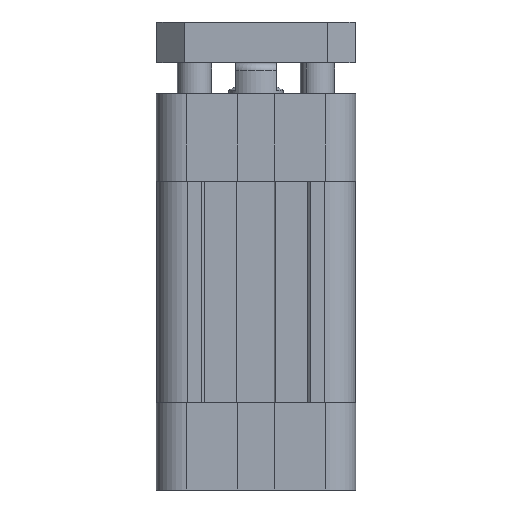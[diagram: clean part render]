
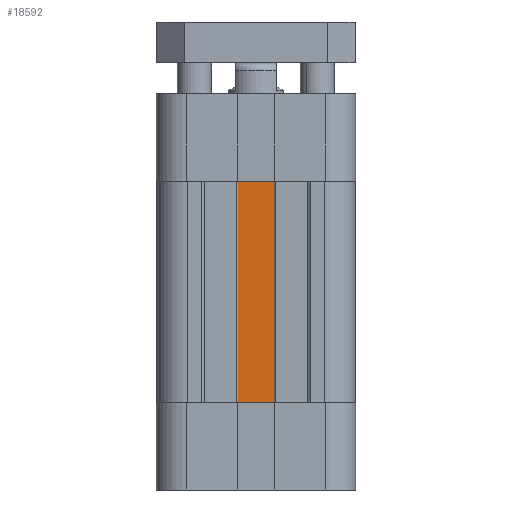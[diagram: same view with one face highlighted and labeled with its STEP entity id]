
A CAD part, front view. The second image highlights one B-rep face of the part: STEP entity #18592.
In plain terms, the highlighted planar face has unit normal (0, -1, 0).
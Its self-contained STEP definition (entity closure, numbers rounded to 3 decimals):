
#6932 = VERTEX_POINT ( 'NONE', #19299 ) ;
#6933 = VERTEX_POINT ( 'NONE', #19298 ) ;
#6999 = EDGE_CURVE ( 'NONE', #6932, #6933, #19433, .T. ) ;
#7181 = VERTEX_POINT ( 'NONE', #19789 ) ;
#7183 = EDGE_CURVE ( 'NONE', #7184, #7181, #19788, .T. ) ;
#7184 = VERTEX_POINT ( 'NONE', #19784 ) ;
#18584 = EDGE_CURVE ( 'NONE', #6932, #7184, #20492, .T. ) ;
#18592 = ADVANCED_FACE ( 'NONE', ( #20532 ), #20538, .F. ) ;
#18600 = EDGE_CURVE ( 'NONE', #6933, #7181, #20523, .T. ) ;
#18601 = ORIENTED_EDGE ( 'NONE', *, *, #18584, .T. ) ;
#18603 = EDGE_LOOP ( 'NONE', ( #18607, #18604, #18605, #18601 ) ) ;
#18604 = ORIENTED_EDGE ( 'NONE', *, *, #18600, .F. ) ;
#18605 = ORIENTED_EDGE ( 'NONE', *, *, #6999, .F. ) ;
#18607 = ORIENTED_EDGE ( 'NONE', *, *, #7183, .T. ) ;
#19298 = CARTESIAN_POINT ( 'NONE',  ( 3.1, -9.3, 32.4 ) ) ;
#19299 = CARTESIAN_POINT ( 'NONE',  ( -3.1, -9.3, 32.4 ) ) ;
#19430 = DIRECTION ( 'NONE',  ( 1., 0., 0. ) ) ;
#19431 = VECTOR ( 'NONE', #19430, 1000. ) ;
#19432 = CARTESIAN_POINT ( 'NONE',  ( 3.1, -9.3, 32.4 ) ) ;
#19433 = LINE ( 'NONE', #19432, #19431 ) ;
#19784 = CARTESIAN_POINT ( 'NONE',  ( -3.1, -9.3, 0. ) ) ;
#19785 = DIRECTION ( 'NONE',  ( 1., 0., 0. ) ) ;
#19786 = VECTOR ( 'NONE', #19785, 1000. ) ;
#19787 = CARTESIAN_POINT ( 'NONE',  ( 3.1, -9.3, 0. ) ) ;
#19788 = LINE ( 'NONE', #19787, #19786 ) ;
#19789 = CARTESIAN_POINT ( 'NONE',  ( 3.1, -9.3, 0. ) ) ;
#20489 = DIRECTION ( 'NONE',  ( 0., 0., -1. ) ) ;
#20490 = VECTOR ( 'NONE', #20489, 1000. ) ;
#20491 = CARTESIAN_POINT ( 'NONE',  ( -3.1, -9.3, 32.4 ) ) ;
#20492 = LINE ( 'NONE', #20491, #20490 ) ;
#20520 = DIRECTION ( 'NONE',  ( 0., 0., -1. ) ) ;
#20521 = VECTOR ( 'NONE', #20520, 1000. ) ;
#20522 = CARTESIAN_POINT ( 'NONE',  ( 3.1, -9.3, 32.4 ) ) ;
#20523 = LINE ( 'NONE', #20522, #20521 ) ;
#20527 = DIRECTION ( 'NONE',  ( 0., 0., 1. ) ) ;
#20528 = DIRECTION ( 'NONE',  ( 0., 1., 0. ) ) ;
#20530 = CARTESIAN_POINT ( 'NONE',  ( 3.1, -9.3, 32.4 ) ) ;
#20531 = AXIS2_PLACEMENT_3D ( 'NONE', #20530, #20528, #20527 ) ;
#20532 = FACE_OUTER_BOUND ( 'NONE', #18603, .T. ) ;
#20538 = PLANE ( 'NONE',  #20531 ) ;
